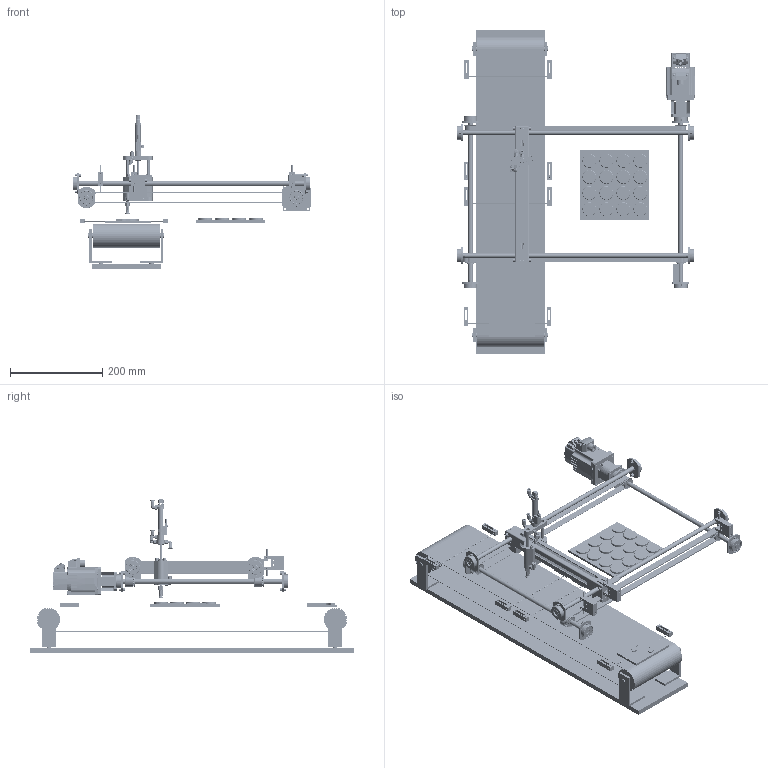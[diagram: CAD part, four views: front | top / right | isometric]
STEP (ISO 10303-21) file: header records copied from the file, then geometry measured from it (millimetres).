
FILE_DESCRIPTION(/* description */ (''),/* implementation_level */ '2;1');
FILE_NAME(/* name */ '_asm_Conveyor&Portal_PLCSim_Final.stp',/* time_stamp */ '2021-07-28T22:26:13+08:00',/* author */ (''),/* organization */ (''),/* preprocessor_version */ 'ST-DEVELOPER v18.1',/* originating_system */ 'SIEMENS PLM Software NX 1953',/* authorisation */ '');
FILE_SCHEMA (('AUTOMOTIVE_DESIGN { 1 0 10303 214 3 1 1 1 }'));
Products named in the file (58): Festo_DSNU-10-30-P-A_1908253_Rundzylinder_V1_002; Festo_DSNU-10-30-P-A_1908253_Rundzylinder_V1_001; 01617-6310-03~1; Festo_VAS-10-M5-NBR_173440_Vakuumsauger_V1; 01617-6310-07~0; 01617-6310-02~0; Zylinderschraube DIN 912 8.8 VZ M5 x 10; Scheibe DIN 9021 4,3; Misumi_LMU-N10_Linearkugellager; 01617-6310-01~0; 01982-6310-01~0; BoschRexroth_HAMMERMUTTER-N8_4_3842501751; Festo_QSML-M3-4_153332_L-Steckverschraubung_V1; 01617-6310-06~1; 01617-6310-10~0; IFM_MK5102_Induktiver-Näherungsschalter_V1; Sechskantmutter DIN 934 8 M 4; 01617-6310-09~0_Standard[Wie bearbeitet]; Rapp_Roos_GG-3003013_Adapterplatte_V1; 01617-6310-04~0; Festo_SMBR-8-10_175092_Sensorbefestigung T-Nut_V1; Misumi_LMU-N6_Linearkugellager_V1; Festo_QSML-M5-4_153333_Steckverschraubung_V1; Sensor_conveyor; Light_beam; Element_Circle; Sensor_trayhandler; 01982-1102-03~0; Misumi_TTBU1000T5-150_Zahnriemen; 01982-1102-02~0; 01617-6300-03~0; 01617-6300-02~1; Misumi_Zahnriemenrad-TTPN14T5150-A-P10-KC90_90; 01617-6300-05~0; 01617-6300-01~0; Siemens_1FL6032-2AF21-1AG1_Motor; Keyence_FU-5FZ_Lichtleiter_V1; 01617-6300-07~0; 01617-6100-10~0; Scheibe DIN 125 ST 4,3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
Assembly tree (172 placements, depth 5):
  _asm_Conveyor&Portal_PLCSim_Final
    _Buttom_Conveyor
    _bracket  x4
    _coil  x2
    _belt
    asm_Portal_stp
      Sicherungsring DIN 471 FST 10  x4
      01617-6200-12~0  x4
      Rillenkugellager 6000-2RSR  x4
      Zylinderschraube DIN 912 8.8 VZ M4 x 10  x15
      Sicherungsring DIN 472 FST 26  x8
      01982-6310-00~0_Stellung oben _Standard_
        Festo_QSML-M5-4_153333_Steckverschraubung_V1  x2
        Misumi_LMU-N6_Linearkugellager_V1  x4
        Festo_SMBR-8-10_175092_Sensorbefestigung T-Nut_V1
        01617-6310-04~0  x2
        Zylinderschraube DIN 912 8.8 VZ M4 x 10  x8
        Rapp_Roos_GG-3003013_Adapterplatte_V1  x2
        01617-6310-09~0_Standard[Wie bearbeitet]
        Scheibe DIN 125 ST 4,3  x6
        Sechskantmutter DIN 934 8 M 4
        IFM_MK5102_Induktiver-Näherungsschalter_V1
        01617-6310-10~0
        01617-6310-06~1  x2
        Festo_QSML-M3-4_153332_L-Steckverschraubung_V1  x3
        BoschRexroth_HAMMERMUTTER-N8_4_3842501751
        01982-6310-01~0
        01617-6310-01~0
        Misumi_LMU-N10_Linearkugellager  x2
        Scheibe DIN 9021 4,3
        Zylinderschraube DIN 912 8.8 VZ M5 x 10
        Festo_DSNU-10-30-P-A_1908253_Rundzylinder_V1
          Festo_DSNU-10-30-P-A_1908253_Rundzylinder_V1_001
          Festo_DSNU-10-30-P-A_1908253_Rundzylinder_V1_002
        01617-6310-02~0
        01617-6310-07~0  x2
        Festo_VAS-10-M5-NBR_173440_Vakuumsauger_V1
        01617-6310-03~1
      01617-6200-13~0  x3
      Zylinderschraube DIN 7984, M 4 x 8  x3
      Scheibe DIN 125 ST 4,3  x16
      01617-6100-10~0  x3
      01617-6300-07~0  x3
      Keyence_FU-5FZ_Lichtleiter_V1  x6
      Siemens_1FL6032-2AF21-1AG1_Motor
      01617-6300-01~0
      01617-6300-05~0  x4
      Misumi_Zahnriemenrad-TTPN14T5150-A-P10-KC90_90  x4
      01617-6300-02~1
      01617-6300-03~0  x2
      01982-1102-02~0
      Misumi_TTBU1000T5-150_Zahnriemen
      01982-1102-03~0
      Sensor_trayhandler  x3
    Table_MODEL
      Element_Circle  x16
    _Part
    Light_beam_asm  x4
      Light_beam
      Sensor_conveyor
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Bounding box: 516.03 x 700 x 332.93 mm (x, y, z)
Volume: 3098563.1 mm3; surface area: 1358576.8 mm2
Topology: 209 solids, 225 shells, 5708 faces, 13947 edges, 8832 vertices
Faces by surface type: plane 2403, cylinder 2325, cone 628, torus 314, sphere 30, bspline 8
Full cylindrical faces by diameter (mm): 1.5 x7, 10 x20
Entity records: 95183 total; most frequent: CARTESIAN_POINT 18229, DIRECTION 14413, ORIENTED_EDGE 13552, EDGE_CURVE 6776, AXIS2_PLACEMENT_3D 5320, VERTEX_POINT 4399, LINE 3773, VECTOR 3773
